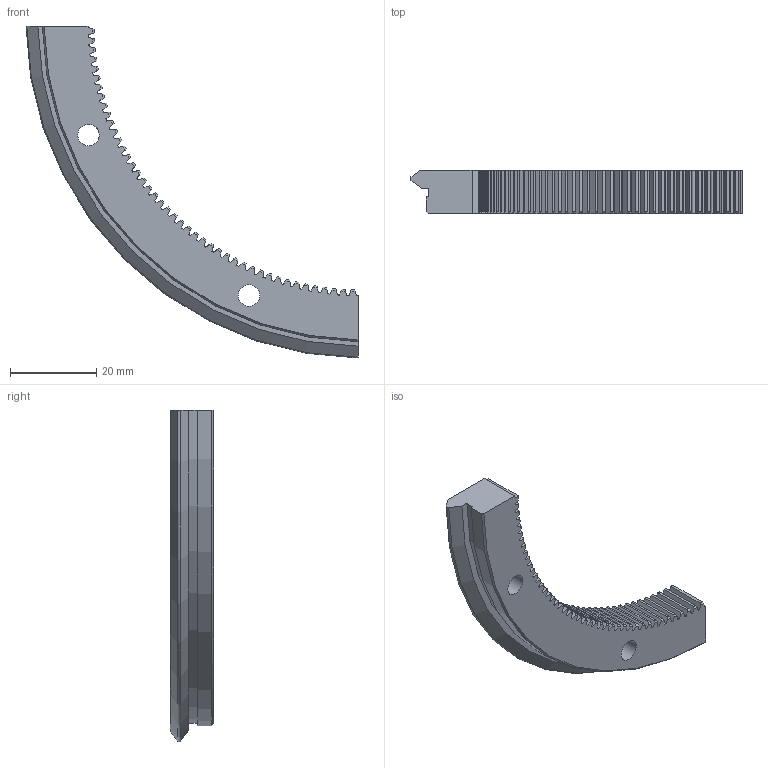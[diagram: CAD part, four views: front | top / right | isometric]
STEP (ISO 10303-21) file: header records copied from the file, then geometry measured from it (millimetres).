
FILE_DESCRIPTION(('STEP AP203'),'1');
FILE_NAME('REV 156 R90 Q.stp','2022-07-19T05:00:54',(' '),(' '),'Spatial InterOp 3D',' ',' ');
FILE_SCHEMA(('CONFIG_CONTROL_DESIGN'));
Length unit declared in the file: millimetre
Products named in the file (1): REV 156 R90 Q
Bounding box: 77.09 x 10 x 77.09 mm (x, y, z)
Volume: 12525.1 mm3; surface area: 6637.2 mm2
Topology: 1 solids, 1 shells, 239 faces, 707 edges, 472 vertices
Faces by surface type: plane 96, cylinder 95, cone 47, torus 1
Full cylindrical faces by diameter (mm): 5 x2, 8 x2
Entity records: 8202 total; most frequent: CARTESIAN_POINT 1717, ORIENTED_EDGE 1402, DIRECTION 1324, EDGE_CURVE 701, AXIS2_PLACEMENT_3D 479, VERTEX_POINT 470, LINE 366, VECTOR 366
